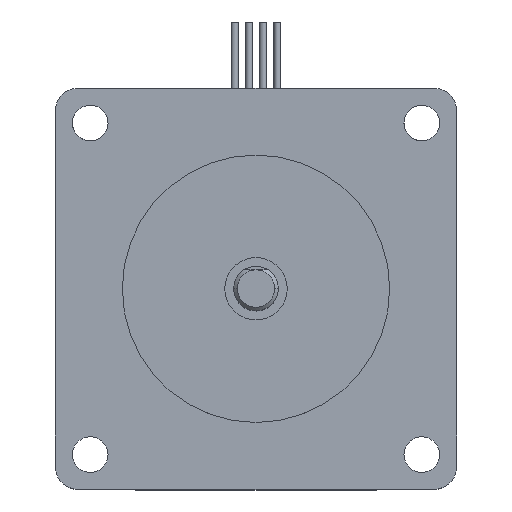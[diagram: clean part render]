
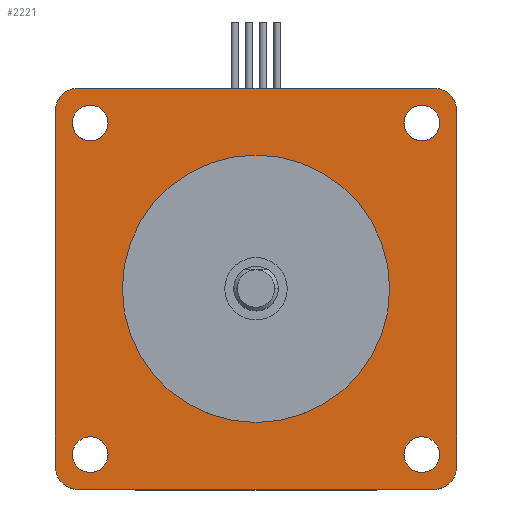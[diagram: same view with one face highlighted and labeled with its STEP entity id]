
A CAD part, top view. The second image highlights one B-rep face of the part: STEP entity #2221.
In plain terms, the highlighted planar face has unit normal (0, 0, 1).
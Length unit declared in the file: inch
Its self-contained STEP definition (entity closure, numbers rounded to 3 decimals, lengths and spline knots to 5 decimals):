
#237=CARTESIAN_POINT('',(-1.03,0.93,2.17));
#238=VERTEX_POINT('',#237);
#254=CARTESIAN_POINT('',(-0.83,0.93,2.17));
#255=VERTEX_POINT('',#254);
#262=CARTESIAN_POINT('',(-0.93,0.93,2.17));
#263=DIRECTION('',(0.0,0.0,-1.0));
#264=DIRECTION('',(-1.0,0.0,0.0));
#265=AXIS2_PLACEMENT_3D('',#262,#263,#264);
#266=CIRCLE('',#265,0.1);
#267=EDGE_CURVE('',#238,#255,#266,.T.);
#279=CARTESIAN_POINT('',(0.93,1.03,2.17));
#280=VERTEX_POINT('',#279);
#296=CARTESIAN_POINT('',(0.93,0.83,2.17));
#297=VERTEX_POINT('',#296);
#304=CARTESIAN_POINT('',(0.93,0.93,2.17));
#305=DIRECTION('',(0.0,0.0,-1.0));
#306=DIRECTION('',(0.0,1.0,0.0));
#307=AXIS2_PLACEMENT_3D('',#304,#305,#306);
#308=CIRCLE('',#307,0.1);
#309=EDGE_CURVE('',#280,#297,#308,.T.);
#321=CARTESIAN_POINT('',(-0.93,-1.03,2.17));
#322=VERTEX_POINT('',#321);
#338=CARTESIAN_POINT('',(-0.93,-0.83,2.17));
#339=VERTEX_POINT('',#338);
#346=CARTESIAN_POINT('',(-0.93,-0.93,2.17));
#347=DIRECTION('',(0.0,0.0,-1.0));
#348=DIRECTION('',(0.0,-1.0,0.0));
#349=AXIS2_PLACEMENT_3D('',#346,#347,#348);
#350=CIRCLE('',#349,0.1);
#351=EDGE_CURVE('',#322,#339,#350,.T.);
#363=CARTESIAN_POINT('',(1.03,-0.93,2.17));
#364=VERTEX_POINT('',#363);
#380=CARTESIAN_POINT('',(0.83,-0.93,2.17));
#381=VERTEX_POINT('',#380);
#388=CARTESIAN_POINT('',(0.93,-0.93,2.17));
#389=DIRECTION('',(0.0,0.0,-1.0));
#390=DIRECTION('',(1.0,0.0,0.0));
#391=AXIS2_PLACEMENT_3D('',#388,#389,#390);
#392=CIRCLE('',#391,0.1);
#393=EDGE_CURVE('',#364,#381,#392,.T.);
#403=CARTESIAN_POINT('',(-0.75,0.,2.17));
#404=VERTEX_POINT('',#403);
#413=CARTESIAN_POINT('',(0.75,0.,2.17));
#414=VERTEX_POINT('',#413);
#415=CARTESIAN_POINT('',(0.0,0.0,2.17));
#416=DIRECTION('',(0.0,0.0,-1.0));
#417=DIRECTION('',(-1.0,0.0,0.0));
#418=AXIS2_PLACEMENT_3D('',#415,#416,#417);
#419=CIRCLE('',#418,0.75);
#420=EDGE_CURVE('',#414,#404,#419,.T.);
#1496=CARTESIAN_POINT('',(1.0,-1.125,2.17));
#1497=VERTEX_POINT('',#1496);
#1504=CARTESIAN_POINT('',(-1.,-1.125,2.17));
#1505=VERTEX_POINT('',#1504);
#1506=CARTESIAN_POINT('',(-1.,-1.125,2.17));
#1507=DIRECTION('',(1.0,0.0,0.0));
#1508=VECTOR('',#1507,2.);
#1509=LINE('',#1506,#1508);
#1510=EDGE_CURVE('',#1505,#1497,#1509,.T.);
#1535=CARTESIAN_POINT('',(-1.125,-1.,2.17));
#1536=VERTEX_POINT('',#1535);
#1543=CARTESIAN_POINT('',(-1.125,1.0,2.17));
#1544=VERTEX_POINT('',#1543);
#1545=CARTESIAN_POINT('',(-1.125,1.0,2.17));
#1546=DIRECTION('',(0.0,-1.0,0.0));
#1547=VECTOR('',#1546,2.);
#1548=LINE('',#1545,#1547);
#1549=EDGE_CURVE('',#1544,#1536,#1548,.T.);
#1977=CARTESIAN_POINT('',(-1.,1.125,2.17));
#1978=VERTEX_POINT('',#1977);
#1979=CARTESIAN_POINT('',(-1.,1.0,2.17));
#1980=DIRECTION('',(0.0,0.0,1.0));
#1981=DIRECTION('',(0.0,1.0,0.0));
#1982=AXIS2_PLACEMENT_3D('',#1979,#1980,#1981);
#1983=CIRCLE('',#1982,0.125);
#1984=EDGE_CURVE('',#1978,#1544,#1983,.T.);
#2002=CARTESIAN_POINT('',(-1.,-1.,2.17));
#2003=DIRECTION('',(0.0,0.0,1.0));
#2004=DIRECTION('',(-1.0,0.0,0.0));
#2005=AXIS2_PLACEMENT_3D('',#2002,#2003,#2004);
#2006=CIRCLE('',#2005,0.125);
#2007=EDGE_CURVE('',#1536,#1505,#2006,.T.);
#2028=CARTESIAN_POINT('',(1.0,1.125,2.17));
#2029=VERTEX_POINT('',#2028);
#2030=CARTESIAN_POINT('',(1.0,1.125,2.17));
#2031=DIRECTION('',(-1.0,0.0,0.0));
#2032=VECTOR('',#2031,2.0);
#2033=LINE('',#2030,#2032);
#2034=EDGE_CURVE('',#2029,#1978,#2033,.T.);
#2068=CARTESIAN_POINT('',(1.125,-1.,2.17));
#2069=VERTEX_POINT('',#2068);
#2076=CARTESIAN_POINT('',(1.0,-1.,2.17));
#2077=DIRECTION('',(0.0,0.0,1.0));
#2078=DIRECTION('',(0.0,-1.0,0.0));
#2079=AXIS2_PLACEMENT_3D('',#2076,#2077,#2078);
#2080=CIRCLE('',#2079,0.125);
#2081=EDGE_CURVE('',#1497,#2069,#2080,.T.);
#2125=CARTESIAN_POINT('',(0.0,0.0,2.17));
#2126=DIRECTION('',(0.0,0.0,-1.0));
#2127=DIRECTION('',(-1.0,0.0,0.0));
#2128=AXIS2_PLACEMENT_3D('',#2125,#2126,#2127);
#2129=CIRCLE('',#2128,0.75);
#2130=EDGE_CURVE('',#404,#414,#2129,.T.);
#2149=CARTESIAN_POINT('',(0.0,0.0,2.17));
#2150=DIRECTION('',(0.0,0.0,1.0));
#2151=DIRECTION('',(1.0,0.0,0.0));
#2152=AXIS2_PLACEMENT_3D('',#2149,#2150,#2151);
#2153=PLANE('',#2152);
#2154=ORIENTED_EDGE('',*,*,#1984,.T.);
#2155=ORIENTED_EDGE('',*,*,#1549,.T.);
#2156=ORIENTED_EDGE('',*,*,#2007,.T.);
#2157=ORIENTED_EDGE('',*,*,#1510,.T.);
#2158=ORIENTED_EDGE('',*,*,#2081,.T.);
#2159=CARTESIAN_POINT('',(1.125,1.0,2.17));
#2160=VERTEX_POINT('',#2159);
#2161=CARTESIAN_POINT('',(1.125,-1.,2.17));
#2162=DIRECTION('',(0.0,1.0,0.0));
#2163=VECTOR('',#2162,2.);
#2164=LINE('',#2161,#2163);
#2165=EDGE_CURVE('',#2069,#2160,#2164,.T.);
#2166=ORIENTED_EDGE('',*,*,#2165,.T.);
#2167=CARTESIAN_POINT('',(1.0,1.0,2.17));
#2168=DIRECTION('',(0.0,0.0,1.0));
#2169=DIRECTION('',(1.0,0.0,0.0));
#2170=AXIS2_PLACEMENT_3D('',#2167,#2168,#2169);
#2171=CIRCLE('',#2170,0.125);
#2172=EDGE_CURVE('',#2160,#2029,#2171,.T.);
#2173=ORIENTED_EDGE('',*,*,#2172,.T.);
#2174=ORIENTED_EDGE('',*,*,#2034,.T.);
#2175=EDGE_LOOP('',(#2154,#2155,#2156,#2157,#2158,#2166,#2173,#2174));
#2176=FACE_OUTER_BOUND('',#2175,.T.);
#2177=CARTESIAN_POINT('',(-0.93,0.93,2.17));
#2178=DIRECTION('',(0.0,0.0,-1.0));
#2179=DIRECTION('',(-1.0,0.0,0.0));
#2180=AXIS2_PLACEMENT_3D('',#2177,#2178,#2179);
#2181=CIRCLE('',#2180,0.1);
#2182=EDGE_CURVE('',#255,#238,#2181,.T.);
#2183=ORIENTED_EDGE('',*,*,#2182,.T.);
#2184=ORIENTED_EDGE('',*,*,#267,.T.);
#2185=EDGE_LOOP('',(#2183,#2184));
#2186=FACE_BOUND('',#2185,.T.);
#2187=CARTESIAN_POINT('',(0.93,0.93,2.17));
#2188=DIRECTION('',(0.0,0.0,-1.0));
#2189=DIRECTION('',(0.0,1.0,0.0));
#2190=AXIS2_PLACEMENT_3D('',#2187,#2188,#2189);
#2191=CIRCLE('',#2190,0.1);
#2192=EDGE_CURVE('',#297,#280,#2191,.T.);
#2193=ORIENTED_EDGE('',*,*,#2192,.T.);
#2194=ORIENTED_EDGE('',*,*,#309,.T.);
#2195=EDGE_LOOP('',(#2193,#2194));
#2196=FACE_BOUND('',#2195,.T.);
#2197=CARTESIAN_POINT('',(-0.93,-0.93,2.17));
#2198=DIRECTION('',(0.0,0.0,-1.0));
#2199=DIRECTION('',(0.0,-1.0,0.0));
#2200=AXIS2_PLACEMENT_3D('',#2197,#2198,#2199);
#2201=CIRCLE('',#2200,0.1);
#2202=EDGE_CURVE('',#339,#322,#2201,.T.);
#2203=ORIENTED_EDGE('',*,*,#2202,.T.);
#2204=ORIENTED_EDGE('',*,*,#351,.T.);
#2205=EDGE_LOOP('',(#2203,#2204));
#2206=FACE_BOUND('',#2205,.T.);
#2207=CARTESIAN_POINT('',(0.93,-0.93,2.17));
#2208=DIRECTION('',(0.0,0.0,-1.0));
#2209=DIRECTION('',(1.0,0.0,0.0));
#2210=AXIS2_PLACEMENT_3D('',#2207,#2208,#2209);
#2211=CIRCLE('',#2210,0.1);
#2212=EDGE_CURVE('',#381,#364,#2211,.T.);
#2213=ORIENTED_EDGE('',*,*,#2212,.T.);
#2214=ORIENTED_EDGE('',*,*,#393,.T.);
#2215=EDGE_LOOP('',(#2213,#2214));
#2216=FACE_BOUND('',#2215,.T.);
#2217=ORIENTED_EDGE('',*,*,#420,.T.);
#2218=ORIENTED_EDGE('',*,*,#2130,.T.);
#2219=EDGE_LOOP('',(#2217,#2218));
#2220=FACE_BOUND('',#2219,.T.);
#2221=ADVANCED_FACE('',(#2176,#2186,#2196,#2206,#2216,#2220),#2153,.T.);
